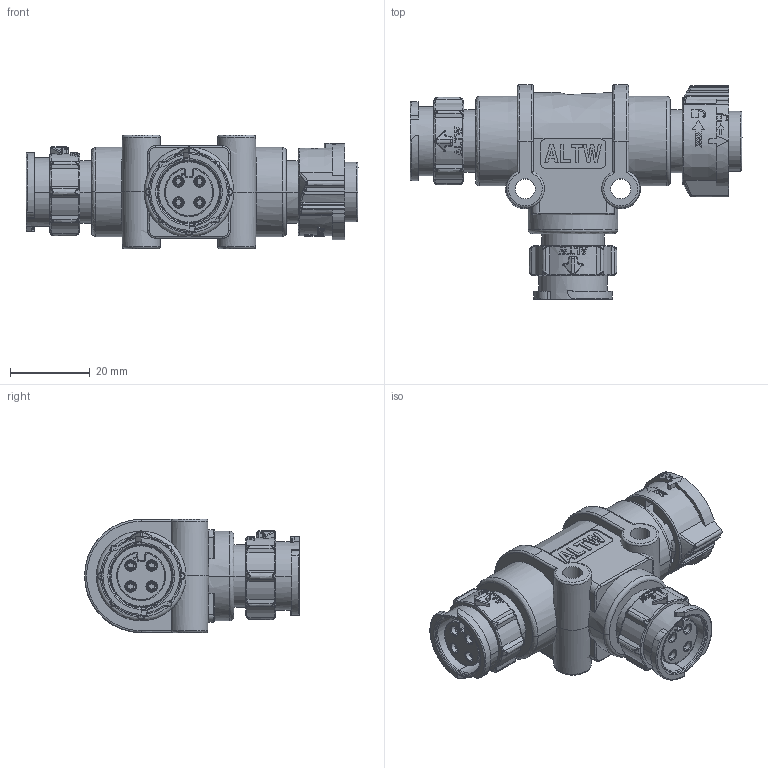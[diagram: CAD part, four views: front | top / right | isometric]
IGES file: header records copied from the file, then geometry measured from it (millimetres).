
Start section:  PTC IGES file: ab-cb-040404-hhb-tq001.igs
Global section: file name: ab-cb-040404-hhb-tq001.igs; native system: Creo Parametric by Parametric Technology Corporation; preprocessor: 2017170; author: L210025; organization: Unknown; date: 20210706.094708; units: millimetre
Bounding box: 83.5 x 54.05 x 28.5 mm (x, y, z)
Volume: 40605.4 mm3; surface area: 17043.7 mm2
Topology: 3 solids, 5 shells, 2150 faces, 5673 edges, 3596 vertices
Faces by surface type: bspline 1138, revolution 674, extrusion 338
